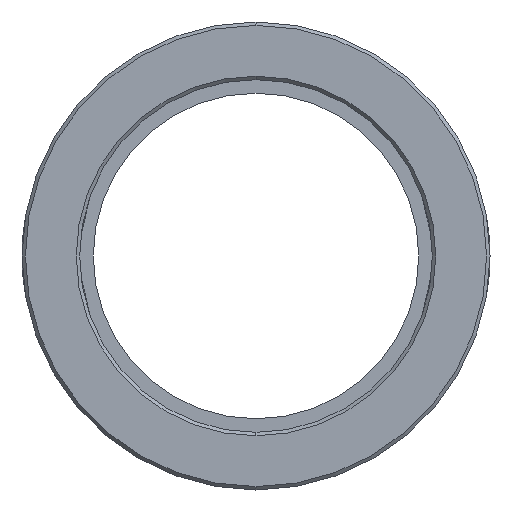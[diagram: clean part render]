
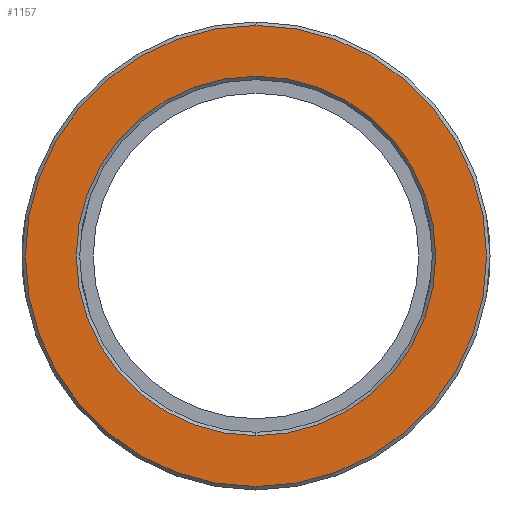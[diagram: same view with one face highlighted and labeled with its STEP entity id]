
A CAD part, left-side view. The second image highlights one B-rep face of the part: STEP entity #1157.
In plain terms, the highlighted planar face has unit normal (-1, 0, 0).
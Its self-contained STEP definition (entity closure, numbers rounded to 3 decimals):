
#14 = AXIS2_PLACEMENT_3D ( 'NONE', #109, #115, #299 ) ;
#30 = CIRCLE ( 'NONE', #1513, 34. ) ;
#32 = CARTESIAN_POINT ( 'NONE',  ( 0., 26., 0. ) ) ;
#36 = AXIS2_PLACEMENT_3D ( 'NONE', #131, #177, #184 ) ;
#46 = CARTESIAN_POINT ( 'NONE',  ( 0., 0., 34. ) ) ;
#109 = CARTESIAN_POINT ( 'NONE',  ( 0., 0., 0. ) ) ;
#111 = CARTESIAN_POINT ( 'NONE',  ( 0., 0., 26.5 ) ) ;
#115 = DIRECTION ( 'NONE',  ( -1., 0., 0. ) ) ;
#131 = CARTESIAN_POINT ( 'NONE',  ( 0., 0., 0. ) ) ;
#177 = DIRECTION ( 'NONE',  ( 1., 0., 0. ) ) ;
#184 = DIRECTION ( 'NONE',  ( 0., 0., -1. ) ) ;
#204 = AXIS2_PLACEMENT_3D ( 'NONE', #32, #276, #269 ) ;
#269 = DIRECTION ( 'NONE',  ( 0., 0., -1. ) ) ;
#276 = DIRECTION ( 'NONE',  ( 1., 0., 0. ) ) ;
#299 = DIRECTION ( 'NONE',  ( 0., 0., -1. ) ) ;
#319 = ORIENTED_EDGE ( 'NONE', *, *, #675, .T. ) ;
#436 = PLANE ( 'NONE',  #204 ) ;
#445 = DIRECTION ( 'NONE',  ( 1., 0., 0. ) ) ;
#449 = DIRECTION ( 'NONE',  ( 0., 0., -1. ) ) ;
#464 = CIRCLE ( 'NONE', #36, 26.5 ) ;
#479 = CIRCLE ( 'NONE', #762, 26.5 ) ;
#493 = EDGE_LOOP ( 'NONE', ( #1101, #1056 ) ) ;
#529 = CARTESIAN_POINT ( 'NONE',  ( 0., 0., 0. ) ) ;
#549 = CIRCLE ( 'NONE', #14, 34. ) ;
#553 = VERTEX_POINT ( 'NONE', #1057 ) ;
#619 = VERTEX_POINT ( 'NONE', #1364 ) ;
#675 = EDGE_CURVE ( 'NONE', #553, #1143, #549, .T. ) ;
#676 = FACE_BOUND ( 'NONE', #493, .T. ) ;
#705 = EDGE_CURVE ( 'NONE', #619, #1197, #479, .T. ) ;
#762 = AXIS2_PLACEMENT_3D ( 'NONE', #529, #445, #449 ) ;
#836 = CARTESIAN_POINT ( 'NONE',  ( 0., 0., 0. ) ) ;
#874 = EDGE_CURVE ( 'NONE', #1143, #553, #30, .T. ) ;
#1010 = FACE_OUTER_BOUND ( 'NONE', #1330, .T. ) ;
#1056 = ORIENTED_EDGE ( 'NONE', *, *, #705, .T. ) ;
#1057 = CARTESIAN_POINT ( 'NONE',  ( 0., 0., -34. ) ) ;
#1101 = ORIENTED_EDGE ( 'NONE', *, *, #1402, .T. ) ;
#1143 = VERTEX_POINT ( 'NONE', #46 ) ;
#1148 = ORIENTED_EDGE ( 'NONE', *, *, #874, .T. ) ;
#1157 = ADVANCED_FACE ( 'NONE', ( #676, #1010 ), #436, .F. ) ;
#1166 = DIRECTION ( 'NONE',  ( -1., 0., 0. ) ) ;
#1187 = DIRECTION ( 'NONE',  ( 0., 0., -1. ) ) ;
#1197 = VERTEX_POINT ( 'NONE', #111 ) ;
#1330 = EDGE_LOOP ( 'NONE', ( #319, #1148 ) ) ;
#1364 = CARTESIAN_POINT ( 'NONE',  ( 0., 0., -26.5 ) ) ;
#1402 = EDGE_CURVE ( 'NONE', #1197, #619, #464, .T. ) ;
#1513 = AXIS2_PLACEMENT_3D ( 'NONE', #836, #1166, #1187 ) ;
